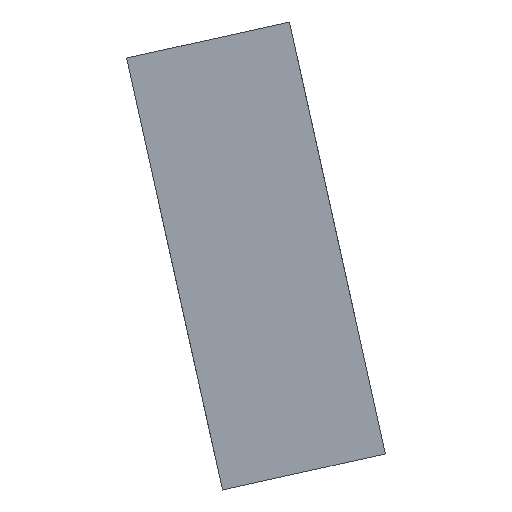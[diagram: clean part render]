
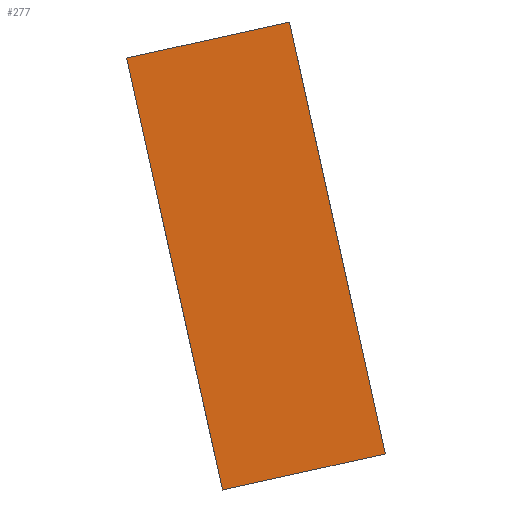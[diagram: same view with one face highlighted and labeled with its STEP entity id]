
A CAD part, front view. The second image highlights one B-rep face of the part: STEP entity #277.
In plain terms, the highlighted planar face has unit normal (0, -1, 0).
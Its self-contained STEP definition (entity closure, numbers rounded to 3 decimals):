
#21 = EDGE_CURVE('',#22,#24,#26,.T.);
#22 = VERTEX_POINT('',#23);
#23 = CARTESIAN_POINT('',(-9.183,-195.495,-273.342));
#24 = VERTEX_POINT('',#25);
#25 = CARTESIAN_POINT('',(-17.839,-195.495,-234.29));
#26 = SURFACE_CURVE('',#27,(#31,#43),.PCURVE_S1.);
#27 = LINE('',#28,#29);
#28 = CARTESIAN_POINT('',(-9.183,-195.495,-273.342));
#29 = VECTOR('',#30,1.);
#30 = DIRECTION('',(-0.216,0.,0.976));
#31 = PCURVE('',#32,#37);
#32 = PLANE('',#33);
#33 = AXIS2_PLACEMENT_3D('',#34,#35,#36);
#34 = CARTESIAN_POINT('',(-9.183,-195.495,-273.342));
#35 = DIRECTION('',(0.976,0.,0.216));
#36 = DIRECTION('',(-0.216,0.,0.976));
#37 = DEFINITIONAL_REPRESENTATION('',(#38),#42);
#38 = LINE('',#39,#40);
#39 = CARTESIAN_POINT('',(0.,0.));
#40 = VECTOR('',#41,1.);
#41 = DIRECTION('',(1.,0.));
#42 = ( GEOMETRIC_REPRESENTATION_CONTEXT(2) 
PARAMETRIC_REPRESENTATION_CONTEXT() REPRESENTATION_CONTEXT('2D SPACE',''
  ) );
#43 = PCURVE('',#44,#49);
#44 = PLANE('',#45);
#45 = AXIS2_PLACEMENT_3D('',#46,#47,#48);
#46 = CARTESIAN_POINT('',(-9.183,-195.495,-273.342));
#47 = DIRECTION('',(0.,1.,0.));
#48 = DIRECTION('',(-0.216,0.,0.976));
#49 = DEFINITIONAL_REPRESENTATION('',(#50),#54);
#50 = LINE('',#51,#52);
#51 = CARTESIAN_POINT('',(0.,0.));
#52 = VECTOR('',#53,1.);
#53 = DIRECTION('',(1.,0.));
#54 = ( GEOMETRIC_REPRESENTATION_CONTEXT(2) 
PARAMETRIC_REPRESENTATION_CONTEXT() REPRESENTATION_CONTEXT('2D SPACE',''
  ) );
#72 = PLANE('',#73);
#73 = AXIS2_PLACEMENT_3D('',#74,#75,#76);
#74 = CARTESIAN_POINT('',(-9.183,-195.495,-273.342));
#75 = DIRECTION('',(-0.216,0.,0.976));
#76 = DIRECTION('',(0.976,0.,0.216));
#126 = PLANE('',#127);
#127 = AXIS2_PLACEMENT_3D('',#128,#129,#130);
#128 = CARTESIAN_POINT('',(-17.839,-195.495,-234.29));
#129 = DIRECTION('',(-0.216,0.,0.976));
#130 = DIRECTION('',(0.976,0.,0.216));
#277 = ADVANCED_FACE('',(#278),#44,.F.);
#278 = FACE_BOUND('',#279,.F.);
#279 = EDGE_LOOP('',(#280,#303,#304,#327));
#280 = ORIENTED_EDGE('',*,*,#281,.F.);
#281 = EDGE_CURVE('',#22,#282,#284,.T.);
#282 = VERTEX_POINT('',#283);
#283 = CARTESIAN_POINT('',(5.535,-195.495,-270.08));
#284 = SURFACE_CURVE('',#285,(#289,#296),.PCURVE_S1.);
#285 = LINE('',#286,#287);
#286 = CARTESIAN_POINT('',(-9.183,-195.495,-273.342));
#287 = VECTOR('',#288,1.);
#288 = DIRECTION('',(0.976,0.,0.216));
#289 = PCURVE('',#44,#290);
#290 = DEFINITIONAL_REPRESENTATION('',(#291),#295);
#291 = LINE('',#292,#293);
#292 = CARTESIAN_POINT('',(0.,0.));
#293 = VECTOR('',#294,1.);
#294 = DIRECTION('',(0.,1.));
#295 = ( GEOMETRIC_REPRESENTATION_CONTEXT(2) 
PARAMETRIC_REPRESENTATION_CONTEXT() REPRESENTATION_CONTEXT('2D SPACE',''
  ) );
#296 = PCURVE('',#72,#297);
#297 = DEFINITIONAL_REPRESENTATION('',(#298),#302);
#298 = LINE('',#299,#300);
#299 = CARTESIAN_POINT('',(0.,0.));
#300 = VECTOR('',#301,1.);
#301 = DIRECTION('',(1.,0.));
#302 = ( GEOMETRIC_REPRESENTATION_CONTEXT(2) 
PARAMETRIC_REPRESENTATION_CONTEXT() REPRESENTATION_CONTEXT('2D SPACE',''
  ) );
#303 = ORIENTED_EDGE('',*,*,#21,.T.);
#304 = ORIENTED_EDGE('',*,*,#305,.T.);
#305 = EDGE_CURVE('',#24,#306,#308,.T.);
#306 = VERTEX_POINT('',#307);
#307 = CARTESIAN_POINT('',(-3.121,-195.495,-231.028));
#308 = SURFACE_CURVE('',#309,(#313,#320),.PCURVE_S1.);
#309 = LINE('',#310,#311);
#310 = CARTESIAN_POINT('',(-17.839,-195.495,-234.29));
#311 = VECTOR('',#312,1.);
#312 = DIRECTION('',(0.976,0.,0.216));
#313 = PCURVE('',#44,#314);
#314 = DEFINITIONAL_REPRESENTATION('',(#315),#319);
#315 = LINE('',#316,#317);
#316 = CARTESIAN_POINT('',(40.,0.));
#317 = VECTOR('',#318,1.);
#318 = DIRECTION('',(0.,1.));
#319 = ( GEOMETRIC_REPRESENTATION_CONTEXT(2) 
PARAMETRIC_REPRESENTATION_CONTEXT() REPRESENTATION_CONTEXT('2D SPACE',''
  ) );
#320 = PCURVE('',#126,#321);
#321 = DEFINITIONAL_REPRESENTATION('',(#322),#326);
#322 = LINE('',#323,#324);
#323 = CARTESIAN_POINT('',(0.,0.));
#324 = VECTOR('',#325,1.);
#325 = DIRECTION('',(1.,0.));
#326 = ( GEOMETRIC_REPRESENTATION_CONTEXT(2) 
PARAMETRIC_REPRESENTATION_CONTEXT() REPRESENTATION_CONTEXT('2D SPACE',''
  ) );
#327 = ORIENTED_EDGE('',*,*,#328,.F.);
#328 = EDGE_CURVE('',#282,#306,#329,.T.);
#329 = SURFACE_CURVE('',#330,(#334,#341),.PCURVE_S1.);
#330 = LINE('',#331,#332);
#331 = CARTESIAN_POINT('',(5.535,-195.495,-270.08));
#332 = VECTOR('',#333,1.);
#333 = DIRECTION('',(-0.216,0.,0.976));
#334 = PCURVE('',#44,#335);
#335 = DEFINITIONAL_REPRESENTATION('',(#336),#340);
#336 = LINE('',#337,#338);
#337 = CARTESIAN_POINT('',(0.,15.075));
#338 = VECTOR('',#339,1.);
#339 = DIRECTION('',(1.,0.));
#340 = ( GEOMETRIC_REPRESENTATION_CONTEXT(2) 
PARAMETRIC_REPRESENTATION_CONTEXT() REPRESENTATION_CONTEXT('2D SPACE',''
  ) );
#341 = PCURVE('',#342,#347);
#342 = PLANE('',#343);
#343 = AXIS2_PLACEMENT_3D('',#344,#345,#346);
#344 = CARTESIAN_POINT('',(5.535,-195.495,-270.08));
#345 = DIRECTION('',(0.976,0.,0.216));
#346 = DIRECTION('',(-0.216,0.,0.976));
#347 = DEFINITIONAL_REPRESENTATION('',(#348),#352);
#348 = LINE('',#349,#350);
#349 = CARTESIAN_POINT('',(0.,0.));
#350 = VECTOR('',#351,1.);
#351 = DIRECTION('',(1.,0.));
#352 = ( GEOMETRIC_REPRESENTATION_CONTEXT(2) 
PARAMETRIC_REPRESENTATION_CONTEXT() REPRESENTATION_CONTEXT('2D SPACE',''
  ) );
